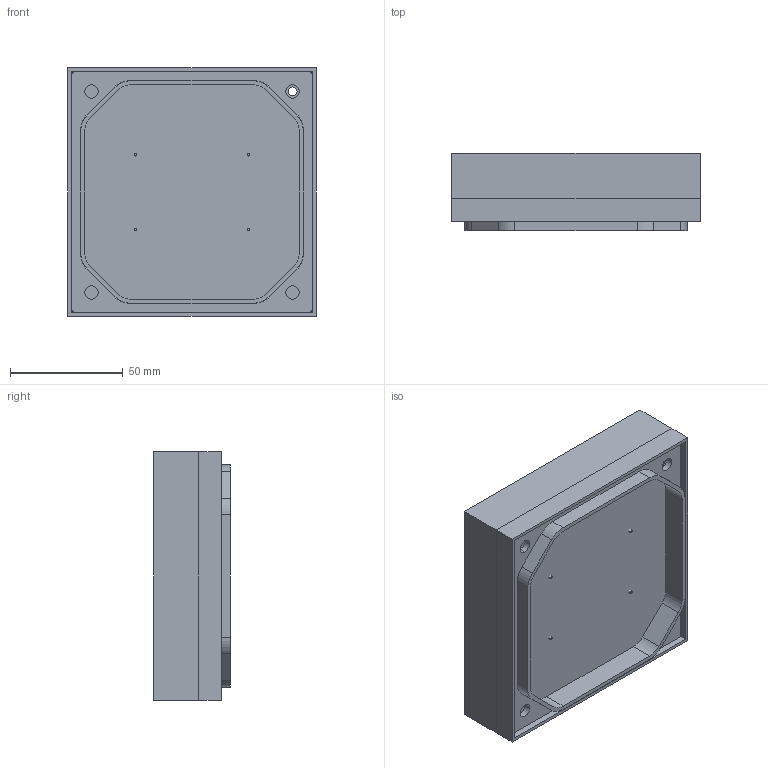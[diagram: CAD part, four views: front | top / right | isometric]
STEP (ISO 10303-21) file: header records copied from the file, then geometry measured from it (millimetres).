
FILE_DESCRIPTION((''),'2;1');
FILE_NAME('01_SW0001','2025-07-31T08:17:24',('Piccioli'),(''),'CREO PARAMETRIC BY PTC INC, 2025010','CREO PARAMETRIC BY PTC INC, 2025010','');
FILE_SCHEMA(('CONFIG_CONTROL_DESIGN'));
Length unit declared in the file: millimetre
Products named in the file (1): 01_SW0001
Bounding box: 110 x 34 x 110 mm (x, y, z)
Surface area: 56611.7 mm2 (no closed solid volume)
Topology: 0 solids, 12 shells, 139 faces, 472 edges, 358 vertices
Faces by surface type: plane 53, cylinder 38, cone 32, torus 16
Entity records: 5584 total; most frequent: CARTESIAN_POINT 1310, DIRECTION 952, ORIENTED_EDGE 770, EDGE_CURVE 472, AXIS2_PLACEMENT_3D 369, VERTEX_POINT 358, CIRCLE 230, VECTOR 214
